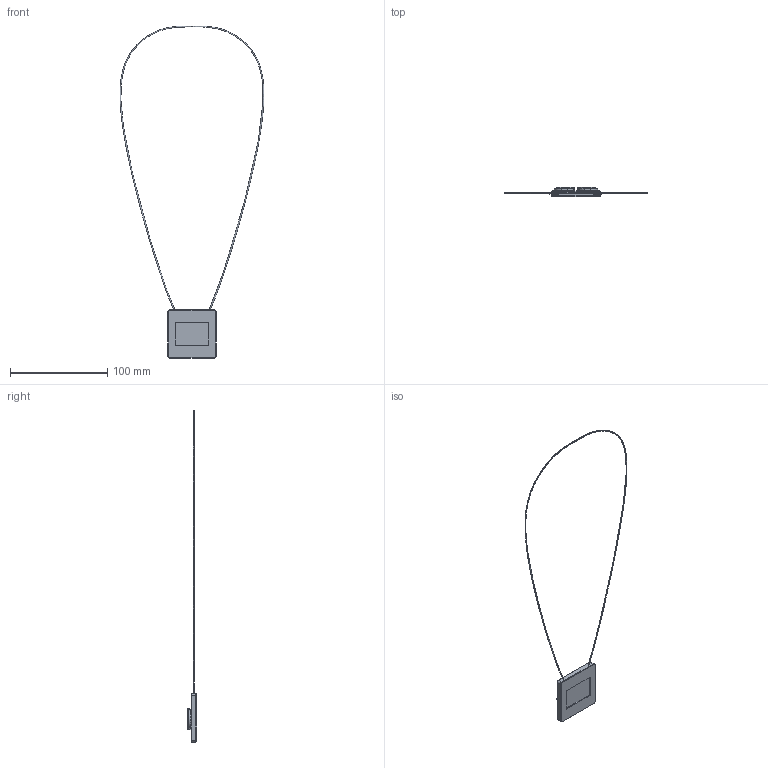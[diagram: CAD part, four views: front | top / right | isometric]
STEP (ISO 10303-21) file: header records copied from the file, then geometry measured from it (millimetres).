
FILE_DESCRIPTION(/* description */ (''),/* implementation_level */ '2;1');
FILE_NAME(/* name */ 'C:\Users\Giulia\Desktop\1509 - 35 MM.stp',/* time_stamp */ '2015-04-23T11:22:24+02:00',/* author */ ('Giulia'),/* organization */ (''),/* preprocessor_version */ 'ST-DEVELOPER v15.6',/* originating_system */ 'Autodesk Inventor 2015',/* authorisation */ '');
FILE_SCHEMA (('AUTOMOTIVE_DESIGN { 1 0 10303 214 3 1 1 }'));
Length unit declared in the file: centimetre
Products named in the file (1): 1509 - 35 MM
Bounding box: 148.29 x 10 x 342.1 mm (x, y, z)
Volume: 16509 mm3; surface area: 9948.6 mm2
Topology: 1 solids, 1 shells, 150 faces, 368 edges, 218 vertices
Faces by surface type: plane 85, cylinder 35, cone 16, bspline 10, torus 4
Entity records: 5236 total; most frequent: CARTESIAN_POINT 1758, ORIENTED_EDGE 720, DIRECTION 686, EDGE_CURVE 360, LINE 262, VECTOR 262, VERTEX_POINT 214, AXIS2_PLACEMENT_3D 212
